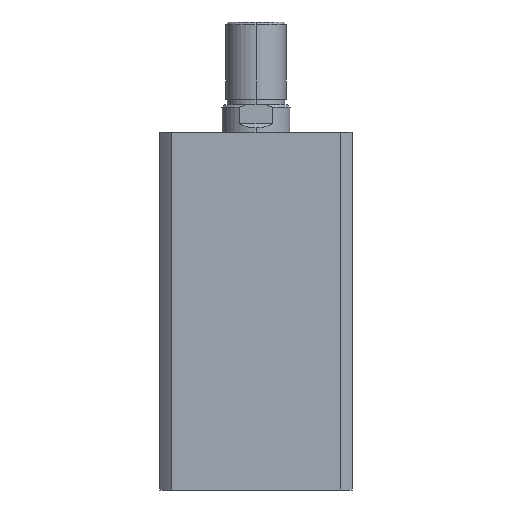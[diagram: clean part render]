
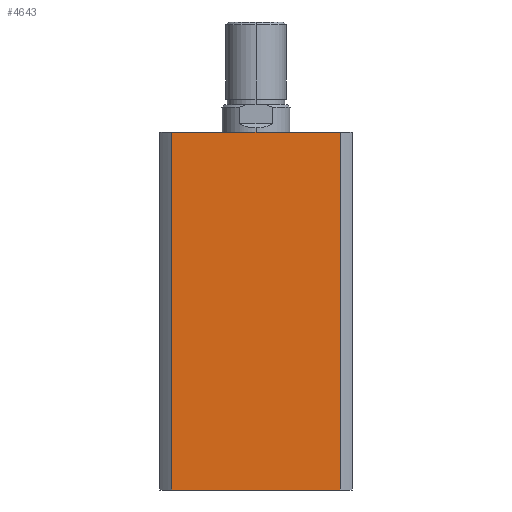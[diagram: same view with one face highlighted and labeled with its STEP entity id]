
A CAD part, left-side view. The second image highlights one B-rep face of the part: STEP entity #4643.
In plain terms, the highlighted planar face has unit normal (-1, 0, 0).
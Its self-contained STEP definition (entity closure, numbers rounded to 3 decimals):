
#196 = EDGE_LOOP ( 'NONE', ( #1622, #1623, #1624, #1625 ) ) ;
#425 = FACE_OUTER_BOUND ( 'NONE', #196, .T. ) ;
#765 = CARTESIAN_POINT ( 'NONE',  ( -35., -30.615, 130. ) ) ;
#766 = CARTESIAN_POINT ( 'NONE',  ( -35., 30.615, 130. ) ) ;
#1390 = VECTOR ( 'NONE', #4536, 1000. ) ;
#1392 = VECTOR ( 'NONE', #4558, 1000. ) ;
#1393 = LINE ( 'NONE', #4537, #1390 ) ;
#1394 = LINE ( 'NONE', #4561, #1392 ) ;
#1395 = VECTOR ( 'NONE', #4547, 1000. ) ;
#1398 = LINE ( 'NONE', #4548, #1395 ) ;
#1435 = VECTOR ( 'NONE', #4945, 1000. ) ;
#1439 = LINE ( 'NONE', #4944, #1435 ) ;
#1622 = ORIENTED_EDGE ( 'NONE', *, *, #2931, .T. ) ;
#1623 = ORIENTED_EDGE ( 'NONE', *, *, #2965, .F. ) ;
#1624 = ORIENTED_EDGE ( 'NONE', *, *, #2966, .F. ) ;
#1625 = ORIENTED_EDGE ( 'NONE', *, *, #2963, .T. ) ;
#1930 = CARTESIAN_POINT ( 'NONE',  ( -35., 0., 130. ) ) ;
#1935 = PLANE ( 'NONE',  #2286 ) ;
#1938 = DIRECTION ( 'NONE',  ( 1., 0., 0. ) ) ;
#1939 = DIRECTION ( 'NONE',  ( 0., 1., 0. ) ) ;
#2286 = AXIS2_PLACEMENT_3D ( 'NONE', #1930, #1938, #1939 ) ;
#2604 = VERTEX_POINT ( 'NONE', #766 ) ;
#2605 = VERTEX_POINT ( 'NONE', #765 ) ;
#2931 = EDGE_CURVE ( 'NONE', #5092, #5103, #1439, .T. ) ;
#2963 = EDGE_CURVE ( 'NONE', #2604, #5092, #1398, .T. ) ;
#2965 = EDGE_CURVE ( 'NONE', #2605, #5103, #1394, .T. ) ;
#2966 = EDGE_CURVE ( 'NONE', #2604, #2605, #1393, .T. ) ;
#3904 = CARTESIAN_POINT ( 'NONE',  ( -35., 30.615, 0. ) ) ;
#3915 = CARTESIAN_POINT ( 'NONE',  ( -35., -30.615, 0. ) ) ;
#4536 = DIRECTION ( 'NONE',  ( 0., -1., 0. ) ) ;
#4537 = CARTESIAN_POINT ( 'NONE',  ( -35., 0., 130. ) ) ;
#4547 = DIRECTION ( 'NONE',  ( 0., 0., -1. ) ) ;
#4548 = CARTESIAN_POINT ( 'NONE',  ( -35., 30.615, 130. ) ) ;
#4558 = DIRECTION ( 'NONE',  ( 0., 0., -1. ) ) ;
#4561 = CARTESIAN_POINT ( 'NONE',  ( -35., -30.615, 130. ) ) ;
#4643 = ADVANCED_FACE ( 'NONE', ( #425 ), #1935, .F. ) ;
#4944 = CARTESIAN_POINT ( 'NONE',  ( -35., 0., 0. ) ) ;
#4945 = DIRECTION ( 'NONE',  ( 0., -1., 0. ) ) ;
#5092 = VERTEX_POINT ( 'NONE', #3904 ) ;
#5103 = VERTEX_POINT ( 'NONE', #3915 ) ;
